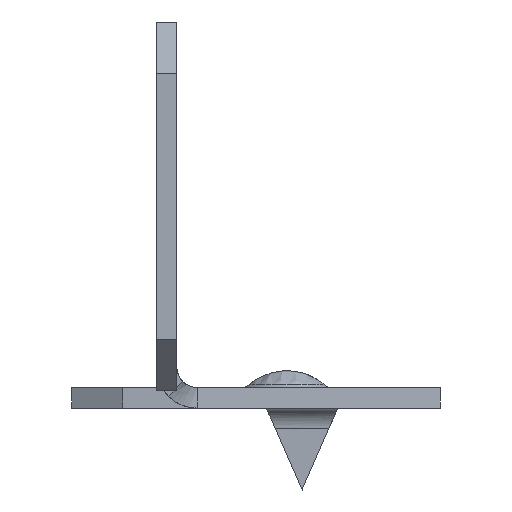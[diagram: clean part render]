
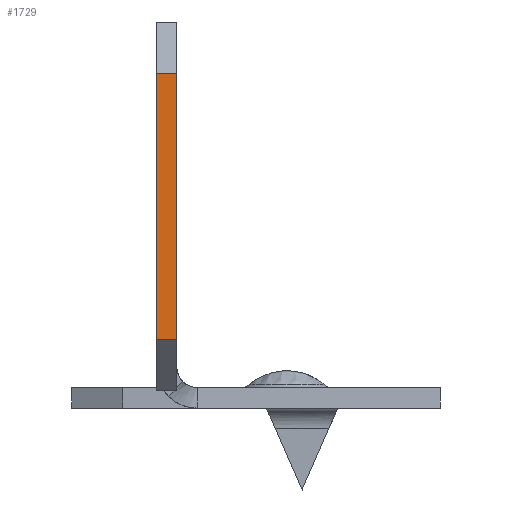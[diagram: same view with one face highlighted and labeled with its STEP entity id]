
A CAD part, front view. The second image highlights one B-rep face of the part: STEP entity #1729.
In plain terms, the highlighted planar face has unit normal (0, -1, 0).
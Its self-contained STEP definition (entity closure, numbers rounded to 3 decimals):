
#109 = EDGE_LOOP ( 'NONE', ( #2127, #3181, #2375, #2470 ) ) ;
#182 = CARTESIAN_POINT ( 'NONE',  ( -7.738, -105., -8.131 ) ) ;
#287 = EDGE_CURVE ( 'NONE', #1825, #2331, #1063, .T. ) ;
#426 = CARTESIAN_POINT ( 'NONE',  ( -9.738, -105., 17.869 ) ) ;
#728 = AXIS2_PLACEMENT_3D ( 'NONE', #1235, #1469, #1962 ) ;
#960 = CARTESIAN_POINT ( 'NONE',  ( -7.738, -105., 17.869 ) ) ;
#982 = CARTESIAN_POINT ( 'NONE',  ( -7.738, -105., -17.917 ) ) ;
#990 = VERTEX_POINT ( 'NONE', #182 ) ;
#1063 = LINE ( 'NONE', #426, #3059 ) ;
#1235 = CARTESIAN_POINT ( 'NONE',  ( -9.738, -105., -13.131 ) ) ;
#1251 = DIRECTION ( 'NONE',  ( 1., 0., 0. ) ) ;
#1392 = FACE_OUTER_BOUND ( 'NONE', #109, .T. ) ;
#1396 = LINE ( 'NONE', #982, #2570 ) ;
#1401 = EDGE_CURVE ( 'NONE', #1825, #990, #1396, .T. ) ;
#1469 = DIRECTION ( 'NONE',  ( 0., -1., 0. ) ) ;
#1471 = DIRECTION ( 'NONE',  ( 0., 0., -1. ) ) ;
#1542 = CARTESIAN_POINT ( 'NONE',  ( -9.738, -105., -8.131 ) ) ;
#1726 = DIRECTION ( 'NONE',  ( -1., 0., 0. ) ) ;
#1729 = ADVANCED_FACE ( 'NONE', ( #1392 ), #2476, .T. ) ;
#1737 = CARTESIAN_POINT ( 'NONE',  ( -9.738, -105., 17.869 ) ) ;
#1825 = VERTEX_POINT ( 'NONE', #960 ) ;
#1962 = DIRECTION ( 'NONE',  ( -1., 0., 0. ) ) ;
#2127 = ORIENTED_EDGE ( 'NONE', *, *, #287, .T. ) ;
#2230 = LINE ( 'NONE', #2269, #2542 ) ;
#2267 = LINE ( 'NONE', #2651, #2858 ) ;
#2269 = CARTESIAN_POINT ( 'NONE',  ( -9.738, -105., -8.131 ) ) ;
#2331 = VERTEX_POINT ( 'NONE', #1737 ) ;
#2375 = ORIENTED_EDGE ( 'NONE', *, *, #2575, .T. ) ;
#2414 = VERTEX_POINT ( 'NONE', #1542 ) ;
#2470 = ORIENTED_EDGE ( 'NONE', *, *, #1401, .F. ) ;
#2476 = PLANE ( 'NONE',  #728 ) ;
#2542 = VECTOR ( 'NONE', #1251, 1000. ) ;
#2570 = VECTOR ( 'NONE', #1471, 1000. ) ;
#2575 = EDGE_CURVE ( 'NONE', #2414, #990, #2230, .T. ) ;
#2625 = DIRECTION ( 'NONE',  ( 0., 0., -1. ) ) ;
#2651 = CARTESIAN_POINT ( 'NONE',  ( -9.738, -105., -13.131 ) ) ;
#2858 = VECTOR ( 'NONE', #2625, 1000. ) ;
#3059 = VECTOR ( 'NONE', #1726, 1000. ) ;
#3139 = EDGE_CURVE ( 'NONE', #2331, #2414, #2267, .T. ) ;
#3181 = ORIENTED_EDGE ( 'NONE', *, *, #3139, .T. ) ;
